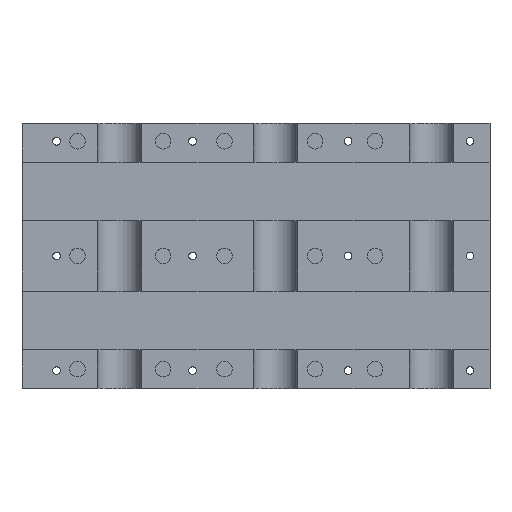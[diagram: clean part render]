
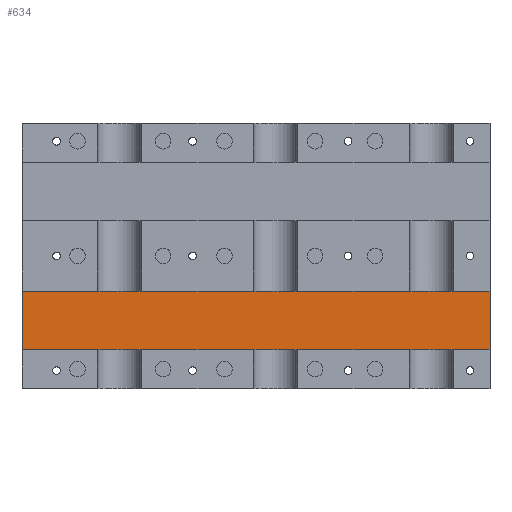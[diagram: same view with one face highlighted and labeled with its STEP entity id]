
A CAD part, top view. The second image highlights one B-rep face of the part: STEP entity #634.
In plain terms, the highlighted planar face has unit normal (0, 0, 1).
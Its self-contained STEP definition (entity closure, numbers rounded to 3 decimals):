
#634=ADVANCED_FACE('',(#1556),#1558,.T.);
#1556=FACE_BOUND('',#1557,.T.);
#1557=EDGE_LOOP('',(#2550,#2551,#2552,#2553));
#1558=PLANE('',#1559);
#1559=AXIS2_PLACEMENT_3D('',#1560,#1561,#1562);
#1560=CARTESIAN_POINT('',(0.,0.,4.));
#1561=DIRECTION('',(0.,0.,1.));
#1562=DIRECTION('',(1.,0.,0.));
#2550=ORIENTED_EDGE('',*,*,#2915,.F.);
#2551=ORIENTED_EDGE('',*,*,#2837,.T.);
#2552=ORIENTED_EDGE('',*,*,#2855,.F.);
#2553=ORIENTED_EDGE('',*,*,#2880,.T.);
#2837=EDGE_CURVE('',#3145,#3143,#3146,.T.);
#2855=EDGE_CURVE('',#3175,#3143,#3177,.T.);
#2880=EDGE_CURVE('',#3175,#3217,#3219,.T.);
#2915=EDGE_CURVE('',#3145,#3217,#3280,.T.);
#3143=VERTEX_POINT('',#3747);
#3145=VERTEX_POINT('',#3751);
#3146=LINE('',#3752,#3753);
#3175=VERTEX_POINT('',#3890);
#3177=LINE('',#3894,#3895);
#3217=VERTEX_POINT('',#4091);
#3219=LINE('',#4095,#4096);
#3280=LINE('',#4313,#4314);
#3747=CARTESIAN_POINT('',(-160.001,-9.,4.));
#3751=CARTESIAN_POINT('',(-40.001,-9.,4.));
#3752=CARTESIAN_POINT('',(-40.001,-9.,4.));
#3753=VECTOR('',#3754,1.);
#3754=DIRECTION('',(-1.,0.,0.));
#3890=CARTESIAN_POINT('',(-160.001,-24.,4.));
#3894=CARTESIAN_POINT('',(-160.001,-24.,4.));
#3895=VECTOR('',#3896,1.);
#3896=DIRECTION('',(0.,1.,0.));
#4091=CARTESIAN_POINT('',(-40.001,-24.,4.));
#4095=CARTESIAN_POINT('',(-160.001,-24.,4.));
#4096=VECTOR('',#4097,1.);
#4097=DIRECTION('',(1.,0.,0.));
#4313=CARTESIAN_POINT('',(-40.001,-9.,4.));
#4314=VECTOR('',#4315,1.);
#4315=DIRECTION('',(0.,-1.,0.));
